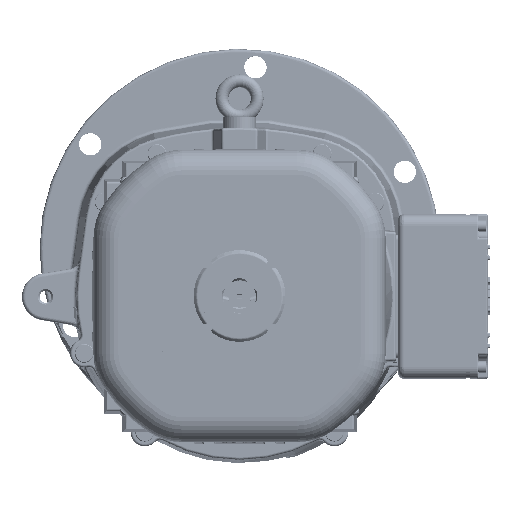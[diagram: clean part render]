
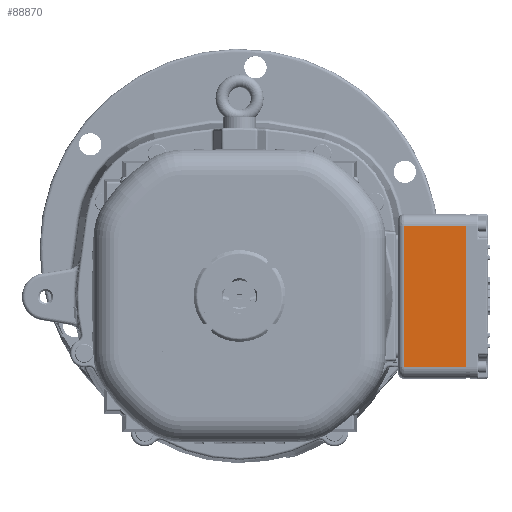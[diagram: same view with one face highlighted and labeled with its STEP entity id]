
A CAD part, top view. The second image highlights one B-rep face of the part: STEP entity #88870.
In plain terms, the highlighted planar face has unit normal (0, 0, 1).
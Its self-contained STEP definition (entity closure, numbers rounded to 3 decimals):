
#4323=PLANE('',#96942);
#8540=FACE_OUTER_BOUND('',#14010,.T.);
#14010=EDGE_LOOP('',(#70523,#70524,#70525,#70526));
#22672=LINE('',#196242,#27178);
#22718=LINE('',#196436,#27224);
#22723=LINE('',#196475,#27229);
#22724=LINE('',#196476,#27230);
#27178=VECTOR('',#114074,10.);
#27224=VECTOR('',#114256,10.);
#27229=VECTOR('',#114281,10.);
#27230=VECTOR('',#114282,10.);
#37714=VERTEX_POINT('',#196239);
#37715=VERTEX_POINT('',#196241);
#37774=VERTEX_POINT('',#196426);
#37776=VERTEX_POINT('',#196432);
#49024=EDGE_CURVE('',#37714,#37715,#22672,.T.);
#49111=EDGE_CURVE('',#37774,#37776,#22718,.T.);
#49123=EDGE_CURVE('',#37774,#37715,#22723,.T.);
#49124=EDGE_CURVE('',#37776,#37714,#22724,.T.);
#70523=ORIENTED_EDGE('',*,*,#49111,.F.);
#70524=ORIENTED_EDGE('',*,*,#49123,.T.);
#70525=ORIENTED_EDGE('',*,*,#49024,.F.);
#70526=ORIENTED_EDGE('',*,*,#49124,.F.);
#88870=ADVANCED_FACE('',(#8540),#4323,.T.);
#96942=AXIS2_PLACEMENT_3D('',#196474,#114279,#114280);
#114074=DIRECTION('',(0.,-1.,0.));
#114256=DIRECTION('',(0.,1.,0.));
#114279=DIRECTION('center_axis',(0.,0.,
1.));
#114280=DIRECTION('ref_axis',(0.,-1.,0.));
#114281=DIRECTION('',(1.,0.,0.));
#114282=DIRECTION('',(1.,0.,0.));
#196239=CARTESIAN_POINT('',(193.131,33.272,258.75));
#196241=CARTESIAN_POINT('',(193.131,-86.728,258.75));
#196242=CARTESIAN_POINT('',(193.131,-86.728,258.75));
#196426=CARTESIAN_POINT('',(140.131,-86.728,258.75));
#196432=CARTESIAN_POINT('',(140.131,33.272,258.75));
#196436=CARTESIAN_POINT('',(140.131,3.272,258.75));
#196474=CARTESIAN_POINT('Origin',(135.131,33.272,258.75));
#196475=CARTESIAN_POINT('',(135.131,-86.728,258.75));
#196476=CARTESIAN_POINT('',(135.131,33.272,258.75));
